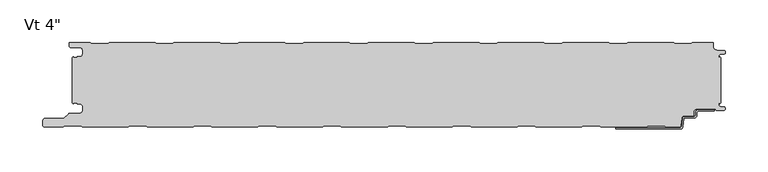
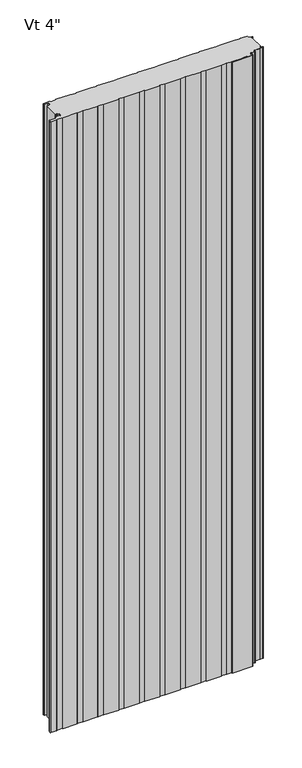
"""IFC4 building model written with IfcOpenShell, lengths in millimetres: plate geometry."""

from ifc_helpers import new_model, si_unit, point, frame, frame_2d, origin, origin_with_axes, place, context, project, spatial, polyline, circle_curve, trimmed, segment, composite_curve, outline, extrude, source, transform, mapped, element, save
from ifc_brep_helpers import plane_surface, cylinder_surface, revolved_surface, advanced_brep


def plate_49fefc4a(model_context):
    return source(origin(), model_context, "Body", "SolidModel", [
        advanced_brep(
        [(354.8464083, -80.5008679, 0.0), (373.5916083, -80.5008679, 0.0), (373.5916083, -82.0248679, 0.0), (354.8464083, -82.0248679, 0.0), (353.3224083, -83.5488679, 0.0), (353.3224083, -86.6476679, 0.0), (349.8680083, -90.1020679, 0.0), (338.655451, -90.1020679, 0.0), (337.8963506, -90.7976552, 0.0), (336.701523, -100.3416507, 0.0), (333.6651216, -103.124, 0.0), (258.0978083, -103.1360323, 0.0), (258.0978083, -101.6, 0.0), (333.6651216, -101.6, 0.0), (335.1833223, -100.2088254, 0.0), (336.3781499, -90.6648299, 0.0), (338.655451, -88.5780679, 0.0), (349.8680083, -88.5780679, 0.0), (351.7984083, -86.6476679, 0.0), (351.7984083, -83.5488679, 0.0), (354.8464083, -80.5008679, 2400.0), (351.7984083, -83.5488679, 2400.0), (351.7984083, -86.6476679, 2400.0), (349.8680083, -88.5780679, 2400.0), (338.655451, -88.5780679, 2400.0), (336.3781499, -90.6648299, 2400.0), (335.1833223, -100.2088254, 2400.0), (333.6651216, -101.6, 2400.0), (258.0978083, -101.6, 2400.0), (258.0978083, -103.1360323, 2400.0), (333.6651216, -103.1360323, 2400.0), (336.701523, -100.3416507, 2400.0), (337.8963506, -90.7976552, 2400.0), (338.655451, -90.1020679, 2400.0), (349.8680083, -90.1020679, 2400.0), (353.3224083, -86.6476679, 2400.0), (353.3224083, -83.5488679, 2400.0), (354.8464083, -82.0248679, 2400.0), (373.5916083, -82.0248679, 2400.0), (373.5916083, -80.5008679, 2400.0)],
        [
            (0, 1),
            (1, 2),
            (2, 3),
            (3, 4, circle_curve(frame((354.8464083, -83.5488679, 0.0), z_axis=(0.0, 0.0, 1.0), x_axis=(0.0, 1.0, 0.0)), 1.524)),
            (4, 5),
            (5, 6, circle_curve(frame((349.8680083, -86.6476679, 0.0), z_axis=(0.0, 0.0, -1.0), x_axis=(0.0, 1.0, 0.0)), 3.4544)),
            (6, 7),
            (7, 8, circle_curve(frame((338.655451, -90.8640679, 0.0), z_axis=(0.0, 0.0, 1.0), x_axis=(0.0, 1.0, 0.0)), 0.762)),
            (8, 9),
            (9, 10, circle_curve(frame((333.6651216, -100.076, 0.0), z_axis=(0.0, 0.0, -1.0), x_axis=(0.0, 1.0, 0.0)), 3.048)),
            (10, 11),
            (11, 12),
            (12, 13),
            (13, 14, circle_curve(frame((333.6651216, -100.076, 0.0), z_axis=(0.0, 0.0, 1.0), x_axis=(0.0, 1.0, 0.0)), 1.524)),
            (14, 15),
            (15, 16, circle_curve(frame((338.655451, -90.8640679, 0.0), z_axis=(0.0, 0.0, -1.0), x_axis=(0.0, 1.0, 0.0)), 2.286)),
            (16, 17),
            (17, 18, circle_curve(frame((349.8680083, -86.6476679, 0.0), z_axis=(0.0, 0.0, 1.0), x_axis=(0.0, 1.0, 0.0)), 1.9304)),
            (18, 19),
            (19, 0, circle_curve(frame((354.8464083, -83.5488679, 0.0), z_axis=(0.0, 0.0, -1.0), x_axis=(0.0, 1.0, 0.0)), 3.048)),
            (20, 21, circle_curve(frame((354.8464083, -83.5488679, 2400.0), z_axis=(0.0, 0.0, 1.0), x_axis=(0.0, 1.0, 0.0)), 3.048)),
            (21, 22),
            (22, 23, circle_curve(frame((349.8680083, -86.6476679, 2400.0), z_axis=(0.0, 0.0, -1.0), x_axis=(0.0, 1.0, 0.0)), 1.9304)),
            (23, 24),
            (24, 25, circle_curve(frame((338.655451, -90.8640679, 2400.0), z_axis=(0.0, 0.0, 1.0), x_axis=(0.0, 1.0, 0.0)), 2.286)),
            (25, 26),
            (26, 27, circle_curve(frame((333.6651216, -100.076, 2400.0), z_axis=(0.0, 0.0, -1.0), x_axis=(0.0, 1.0, 0.0)), 1.524)),
            (27, 28),
            (28, 29),
            (29, 30),
            (30, 31, circle_curve(frame((333.6651216, -100.076, 2400.0), z_axis=(0.0, 0.0, 1.0), x_axis=(0.0, 1.0, 0.0)), 3.048)),
            (31, 32),
            (32, 33, circle_curve(frame((338.655451, -90.8640679, 2400.0), z_axis=(0.0, 0.0, -1.0), x_axis=(0.0, 1.0, 0.0)), 0.762)),
            (33, 34),
            (34, 35, circle_curve(frame((349.8680083, -86.6476679, 2400.0), z_axis=(0.0, 0.0, 1.0), x_axis=(0.0, 1.0, 0.0)), 3.4544)),
            (35, 36),
            (36, 37, circle_curve(frame((354.8464083, -83.5488679, 2400.0), z_axis=(0.0, 0.0, -1.0), x_axis=(0.0, 1.0, 0.0)), 1.524)),
            (37, 38),
            (38, 39),
            (39, 20),
            (2, 38),
            (37, 3),
            (15, 25),
            (24, 16),
            (7, 33),
            (32, 8),
            (5, 35),
            (34, 6),
            (1, 39),
            (36, 4),
            (9, 31),
            (30, 10),
            (13, 27),
            (26, 14),
            (0, 20),
            (12, 28),
            (29, 11),
            (23, 17),
            (18, 22),
            (21, 19),
        ],
        [
            plane_surface(frame((373.5916083, -101.6, 0.0), z_axis=(0.0, 0.0, -1.0), x_axis=(-1.0, 0.0, 0.0))),
            plane_surface(frame((373.5916083, -101.6, 2400.0), z_axis=(0.0, 0.0, 1.0), x_axis=(-1.0, 0.0, 0.0))),
            plane_surface(frame((354.8464083, -82.0248679, 0.0), z_axis=(0.0, -1.0, 0.0), x_axis=(0.0, 0.0, 1.0))),
            cylinder_surface(frame((338.655451, -90.8640679, 0.0), z_axis=(0.0, 0.0, -1.0), x_axis=(0.0, 1.0, 0.0)), 2.286),
            revolved_surface(polyline([(338.655451, -90.1020679, 2400.0), (338.655451, -90.1020679, 0.0)]), (338.655451, -90.8640679, 0.0), (0.0, 0.0, 1.0)),
            cylinder_surface(frame((349.8680083, -86.6476679, 0.0), z_axis=(0.0, 0.0, -1.0), x_axis=(0.0, 1.0, 0.0)), 3.4544),
            plane_surface(frame((373.5916083, -82.0248679, 0.0), z_axis=(1.0, 0.0, 0.0), x_axis=(0.0, 0.0, 1.0))),
            revolved_surface(polyline([(354.8464083, -82.0248679, 2400.0), (354.8464083, -82.0248679, 0.0)]), (354.8464083, -83.5488679, 0.0), (0.0, 0.0, 1.0)),
            cylinder_surface(frame((333.6651216, -100.076, 0.0), z_axis=(0.0, 0.0, -1.0), x_axis=(0.0, 1.0, 0.0)), 3.048),
            revolved_surface(polyline([(333.6651216, -98.55199999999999, 2400.0), (333.6651216, -98.55199999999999, 0.0)]), (333.6651216, -100.076, 0.0), (0.0, 0.0, 1.0)),
            plane_surface(frame((373.5916083, -80.5008679, 0.0), z_axis=(0.0, 1.0, 0.0), x_axis=(0.0, 0.0, 1.0))),
            plane_surface(frame((336.3781499, -90.6648299, 0.0), z_axis=(-0.9922544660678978, 0.12422187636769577, 0.0), x_axis=(0.0, 0.0, 1.0))),
            plane_surface(frame((333.6651216, -101.6, 0.0), z_axis=(0.0, 1.0, 0.0), x_axis=(0.0, 0.0, 1.0))),
            plane_surface(frame((336.701523, -100.3416507, 0.0), z_axis=(0.9922544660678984, -0.12422187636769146, 0.0), x_axis=(0.0, 0.0, 1.0))),
            plane_surface(frame((353.3224083, -86.6476679, 0.0), z_axis=(1.0, 0.0, 0.0), x_axis=(0.0, 0.0, 1.0))),
            plane_surface(frame((258.0978083, -103.1360323, 0.0), z_axis=(0.0, -1.0, 0.0), x_axis=(0.0, 0.0, 1.0))),
            plane_surface(frame((258.0978083, -101.6, 0.0), z_axis=(-1.0, 0.0, 0.0), x_axis=(0.0, 0.0, 1.0))),
            plane_surface(frame((349.8680083, -88.5780679, 0.0), z_axis=(0.0, 1.0, 0.0), x_axis=(0.0, 0.0, 1.0))),
            plane_surface(frame((351.7984083, -83.5488679, 0.0), z_axis=(-1.0, 0.0, 0.0), x_axis=(0.0, 0.0, 1.0))),
            plane_surface(frame((338.655451, -90.1020679, 0.0), z_axis=(0.0, -1.0, 0.0), x_axis=(0.0, 0.0, 1.0))),
            revolved_surface(polyline([(349.8680083, -84.7172679, 2400.0), (349.8680083, -84.7172679, 0.0)]), (349.8680083, -86.6476679, 0.0), (0.0, 0.0, 1.0)),
            cylinder_surface(frame((354.8464083, -83.5488679, 0.0), z_axis=(0.0, 0.0, -1.0), x_axis=(0.0, 1.0, 0.0)), 3.048),
        ],
        [
            (0, [[1, 2, 3, 4, 5, 6, 7, 8, 9, 10, 11, 12, 13, 14, 15, 16, 17, 18, 19, 20]]),
            (1, [[21, 22, 23, 24, 25, 26, 27, 28, 29, 30, 31, 32, 33, 34, 35, 36, 37, 38, 39, 40]]),
            (2, [[41, -38, 42, -3]]),
            (3, [[43, -25, 44, -16]]),
            (4, [[45, -33, 46, -8]]),
            (5, [[47, -35, 48, -6]]),
            (6, [[49, -39, -41, -2]]),
            (7, [[-42, -37, 50, -4]]),
            (8, [[51, -31, 52, -10]]),
            (9, [[53, -27, 54, -14]]),
            (10, [[55, -40, -49, -1]]),
            (11, [[-54, -26, -43, -15]]),
            (12, [[56, -28, -53, -13]]),
            (13, [[-46, -32, -51, -9]]),
            (14, [[-50, -36, -47, -5]]),
            (15, [[-52, -30, 57, -11]]),
            (16, [[-57, -29, -56, -12]]),
            (17, [[-44, -24, 58, -17]]),
            (18, [[59, -22, 60, -19]]),
            (19, [[-48, -34, -45, -7]]),
            (20, [[-58, -23, -59, -18]]),
            (21, [[-60, -21, -55, -20]]),
        ],
    ),
        extrude(outline(composite_curve([segment(polyline([(-379.9683001, -73.2760133), (-381.0, -72.2443135), (-381.0, -19.0328281), (-379.9686883, -18.0015165)]), True, "CONTINUOUS"), segment(trimmed(circle_curve(frame_2d((-378.9686911, -18.0015105)), 0.9999972), [point((-379.9686883, -18.0015165))], [point((-378.9686911, -19.0015077))], True, "CARTESIAN"), True, "CONTINUOUS"), segment(polyline([(-378.9686911, -19.0015077), (-374.9684875, -19.0015077), (-374.9684875, -18.0015132), (-372.2762777, -18.0015132)]), True, "CONTINUOUS"), segment(trimmed(circle_curve(frame_2d((-372.2762777, -14.7015175)), 3.2999957), [point((-372.2762777, -18.0015132))], [point((-368.976282, -14.7015175))], True, "CARTESIAN"), True, "CONTINUOUS"), segment(polyline([(-368.976282, -14.7015175), (-368.976282, -10.3015263)]), True, "CONTINUOUS"), segment(trimmed(circle_curve(frame_2d((-372.2762778, -10.3015263)), 3.2999959), [point((-368.976282, -10.3015263))], [point((-372.2762778, -7.0015304))], True, "CARTESIAN"), True, "CONTINUOUS"), segment(polyline([(-372.2762778, -7.0015304), (-382.6962564, -7.0015304)]), True, "CONTINUOUS"), segment(trimmed(circle_curve(frame_2d((-382.6962564, -5.2315362)), 1.7699942), [point((-382.6962564, -7.0015304))], [point((-384.4662506, -5.2315362))], False, "CARTESIAN"), True, "CONTINUOUS"), segment(polyline([(-384.4662506, -5.2315362), (-384.4662506, -0.9999889), (-359.965974, -0.9999889), (-358.5803313, -2.200228), (-339.205165, -2.200228), (-337.8195321, -0.9999973), (-283.7661167, -0.9999973), (-282.3804837, -2.200228), (-263.0053174, -2.200228), (-261.6196845, -0.9999973), (-207.5662691, -0.9999973), (-206.1806361, -2.200228), (-186.8054698, -2.200228), (-185.4198369, -0.9999973), (-131.3664215, -0.9999973), (-129.9807885, -2.200228), (-110.6056222, -2.200228), (-109.2199893, -0.9999973), (-55.1665739, -0.9999973), (-53.7809409, -2.200228), (-34.4057746, -2.200228), (-33.0201417, -0.9999973), (21.0332737, -0.9999973), (22.4189067, -2.200228), (41.794073, -2.200228), (43.1797059, -0.9999973), (97.2331213, -0.9999973), (98.6187543, -2.200228), (117.9939206, -2.200228), (119.3795535, -0.9999973), (173.4329689, -0.9999973), (174.8186019, -2.200228), (194.1937682, -2.200228), (195.5794011, -0.9999973), (249.6328165, -0.9999973), (251.0184495, -2.200228), (270.3936158, -2.200228), (271.7792487, -0.9999973), (325.8326641, -0.9999973), (327.2182971, -2.200228), (346.5934634, -2.200228), (347.9790963, -0.9999973), (372.4787013, -0.9999973), (372.4787013, -6.002598)]), True, "CONTINUOUS"), segment(trimmed(circle_curve(frame_2d((376.4939817, -5.9867311)), 4.0153117), [point((372.4787013, -6.002598))], [point((376.3016499, -9.9974338))], True, "CARTESIAN"), True, "CONTINUOUS"), segment(polyline([(376.3016499, -9.9974338), (384.7931719, -10.4046415)]), True, "CONTINUOUS"), segment(trimmed(circle_curve(frame_2d((384.6781032, -12.5552844)), 2.153719), [point((384.7931719, -10.4046415))], [point((384.7921924, -14.7059795))], False, "CARTESIAN"), True, "CONTINUOUS"), segment(polyline([(384.7921924, -14.7059795), (380.6513685, -14.9256402)]), True, "CONTINUOUS"), segment(trimmed(circle_curve(frame_2d((380.7186869, -16.6743434)), 1.7499985), [point((380.6513685, -14.9256402))], [point((378.9686884, -16.6743434))], True, "CARTESIAN"), True, "CONTINUOUS"), segment(polyline([(378.9686884, -16.6743434), (378.9686884, -19.0015261), (379.9686884, -19.0015261), (379.9686884, -17.5871382), (381.0, -18.6184498), (381.0, -72.6586918), (379.9686884, -73.6900034), (379.9686884, -72.1025034), (378.9686884, -72.1025034), (378.9686884, -74.88705)]), True, "CONTINUOUS"), segment(trimmed(circle_curve(frame_2d((380.8099653, -74.843489)), 1.8417922), [point((378.9686884, -74.88705))], [point((380.6977997, -76.6818625))], True, "CARTESIAN"), True, "CONTINUOUS"), segment(polyline([(380.6977997, -76.6818625), (384.7037148, -76.9262775)]), True, "CONTINUOUS"), segment(trimmed(circle_curve(frame_2d((384.6236622, -79.0266264)), 2.1018739), [point((384.7037148, -76.9262775))], [point((384.706811, -81.126855))], False, "CARTESIAN"), True, "CONTINUOUS"), segment(polyline([(384.706811, -81.126855), (375.7334028, -81.4821154), (374.5895515, -79.5012676), (353.4091924, -79.5012676)]), True, "CONTINUOUS"), segment(trimmed(circle_curve(frame_2d((353.4091924, -83.5007205)), 3.9994529), [point((353.4091924, -79.5012676))], [point((349.4097394, -83.5007205))], True, "CARTESIAN"), True, "CONTINUOUS"), segment(polyline([(349.4097394, -83.5007205), (349.4097394, -86.6443759)]), True, "CONTINUOUS"), segment(trimmed(circle_curve(frame_2d((348.4583308, -86.6443759)), 0.9514087), [point((349.4097394, -86.6443759))], [point((348.4583308, -87.5957846))], False, "CARTESIAN"), True, "CONTINUOUS"), segment(polyline([(348.4583308, -87.5957846), (338.3653654, -87.5957846)]), True, "CONTINUOUS"), segment(trimmed(circle_curve(frame_2d((338.2396267, -90.6231704)), 3.0299959), [point((338.3653654, -87.5957846))], [point((335.221161, -90.3590875))], True, "CARTESIAN"), True, "CONTINUOUS"), segment(polyline([(335.221161, -90.3590875), (334.4671075, -98.8178001)]), True, "CONTINUOUS"), segment(trimmed(circle_curve(frame_2d((332.5156233, -98.6461167)), 1.9590216), [point((334.4671075, -98.8178001))], [point((332.5156233, -100.6051384))], False, "CARTESIAN"), True, "CONTINUOUS"), segment(polyline([(332.5156233, -100.6051384), (316.4457079, -100.6051384), (315.2403361, -99.3997666), (295.5209236, -99.3997666), (294.3206929, -100.5999973), (240.2405611, -100.5999973), (239.0403304, -99.3997666), (219.3209179, -99.3997666), (218.1206872, -100.5999973), (164.0405554, -100.5999973), (162.8403247, -99.3997666), (143.1209122, -99.3997666), (141.9206815, -100.5999973), (87.8405497, -100.5999973), (86.640319, -99.3997666), (66.9209065, -99.3997666), (65.7206758, -100.5999973), (11.640544, -100.5999973), (10.4403133, -99.3997666), (-9.2790992, -99.3997666), (-10.4793299, -100.5999973), (-64.5594617, -100.5999973), (-65.7596924, -99.3997666), (-85.4791049, -99.3997666), (-86.6793356, -100.5999973), (-140.7594674, -100.5999973), (-141.9596981, -99.3997666), (-161.6791106, -99.3997666), (-162.8793413, -100.5999973), (-216.9594731, -100.5999973), (-218.1597038, -99.3997666), (-237.8791163, -99.3997666), (-239.079347, -100.5999973), (-293.1594787, -100.5999973), (-294.3597095, -99.3997666), (-314.079122, -99.3997666), (-315.2793527, -100.5999973), (-369.3594844, -100.5999973), (-370.5597151, -99.3997666), (-390.2791277, -99.3997666), (-391.4790962, -100.5997351), (-413.4521176, -100.5997351)]), True, "CONTINUOUS"), segment(trimmed(circle_curve(frame_2d((-413.4521176, -98.0294958)), 2.5702393), [point((-413.4521176, -100.5997351))], [point((-416.0125699, -97.8054102))], False, "CARTESIAN"), True, "CONTINUOUS"), segment(polyline([(-416.0125699, -97.8054102), (-415.5765709, -92.8235893)]), True, "CONTINUOUS"), segment(trimmed(circle_curve(frame_2d((-412.9198392, -93.3049799)), 2.6999926), [point((-415.5765709, -92.8235893))], [point((-412.9198392, -90.6049873))], False, "CARTESIAN"), True, "CONTINUOUS"), segment(polyline([(-412.9198392, -90.6049873), (-390.8247096, -90.6049873), (-385.3226385, -85.1029162)]), True, "CONTINUOUS"), segment(trimmed(circle_curve(frame_2d((-384.1205608, -86.3049939)), 1.6999946), [point((-385.3226385, -85.1029162))], [point((-384.1205608, -84.6049993))], False, "CARTESIAN"), True, "CONTINUOUS"), segment(polyline([(-384.1205608, -84.6049993), (-372.3096717, -84.6049993)]), True, "CONTINUOUS"), segment(trimmed(circle_curve(frame_2d((-372.3096717, -81.255004)), 3.3499953), [point((-372.3096717, -84.6049993))], [point((-368.9596764, -81.255004))], True, "CARTESIAN"), True, "CONTINUOUS"), segment(polyline([(-368.9596764, -81.255004), (-368.9596764, -76.8550128)]), True, "CONTINUOUS"), segment(trimmed(circle_curve(frame_2d((-372.3096717, -76.8550128)), 3.3499953), [point((-368.9596764, -76.8550128))], [point((-372.3096717, -73.5050175))], True, "CARTESIAN"), True, "CONTINUOUS"), segment(polyline([(-372.3096717, -73.5050175), (-375.0087827, -73.5050175), (-375.0087827, -72.1065386), (-378.7671761, -72.1065386)]), True, "CONTINUOUS"), segment(trimmed(circle_curve(frame_2d((-378.7686908, -73.3065352)), 1.1999976), [point((-378.7671761, -72.1065386))], [point((-379.9683001, -73.2760133))], True, "CARTESIAN"), True, "CONTINUOUS")], self_intersect=False)), origin_with_axes(), (0.0, 0.0, 1.0), 2400.0),
    ])


if __name__ == "__main__":
    model = new_model("IFC4")
    model_context = context("Model", 3, world=origin())
    ifc_project = project(units=[si_unit("LENGTHUNIT", "METRE", prefix="MILLI")], contexts=[model_context])
    site = spatial("IfcSite", under=ifc_project)
    building = spatial("IfcBuilding", under=site)
    placement = place(None, origin())
    plate_shape = plate_49fefc4a(model_context)
    element("IfcPlate", 1, ObjectType="KIP-30-Karrier-KP-R19-CP-Vt-SL_SL : Vt 4\"", at=placement, inside=building, context=model_context, shape_type="MappedRepresentation", body=[
        mapped(plate_shape, transform((0.0, 0.0, 0.0), x_axis=(1.0, 0.0, 0.0), y_axis=(0.0, 1.0, 0.0), z_axis=(0.0, 0.0, 1.0))),
    ])
    save(model, "model.ifc")
